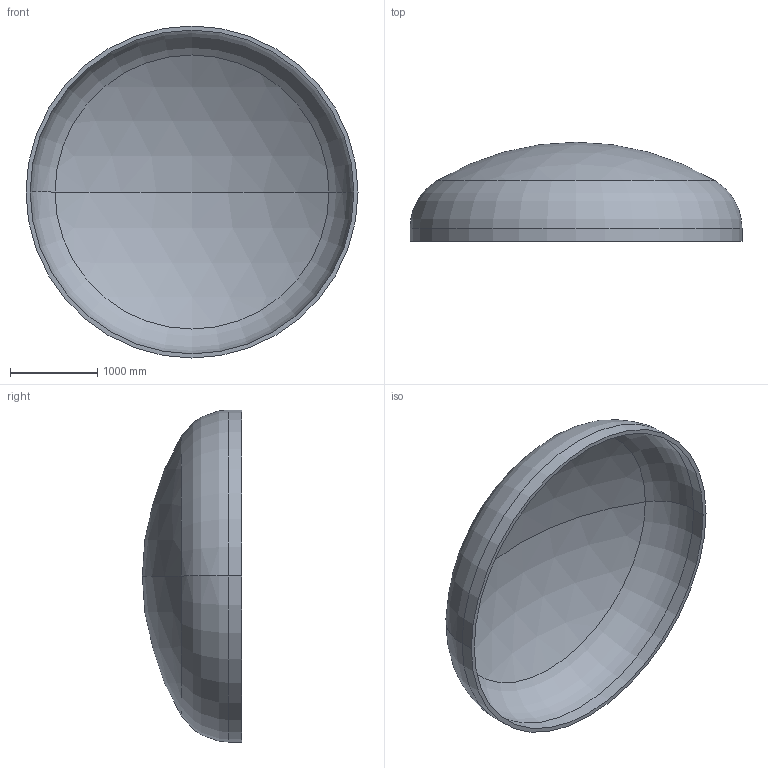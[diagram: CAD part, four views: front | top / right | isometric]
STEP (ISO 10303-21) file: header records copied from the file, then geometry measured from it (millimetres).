
FILE_DESCRIPTION (( 'STEP AP203' ), '1' );
FILE_NAME ('DIN 28013 Korbbogenform_-_Boden DIN 28013 - 3800 x 150 - I - s=48.step', '2016-07-01T21:28:20', ( '' ), ( '' ), 'SwSTEP 2.0', 'SolidWorks 2013', '' );
FILE_SCHEMA (( 'CONFIG_CONTROL_DESIGN' ));
Length unit declared in the file: millimetre
Products named in the file (1): DIN 28013 Korbbogenform_-_Boden DIN 28013 - 3800 x 150 - I - s=48
Bounding box: 3800 x 1135.21 x 3800 mm (x, y, z)
Volume: 826285206.6 mm3; surface area: 34999151.8 mm2
Topology: 1 solids, 1 shells, 13 faces, 24 edges, 14 vertices
Faces by surface type: torus 4, cylinder 4, sphere 4, plane 1
Entity records: 407 total; most frequent: DIRECTION 72, CARTESIAN_POINT 52, ORIENTED_EDGE 48, AXIS2_PLACEMENT_3D 34, EDGE_CURVE 24, CIRCLE 20, VERTEX_POINT 14, EDGE_LOOP 14
